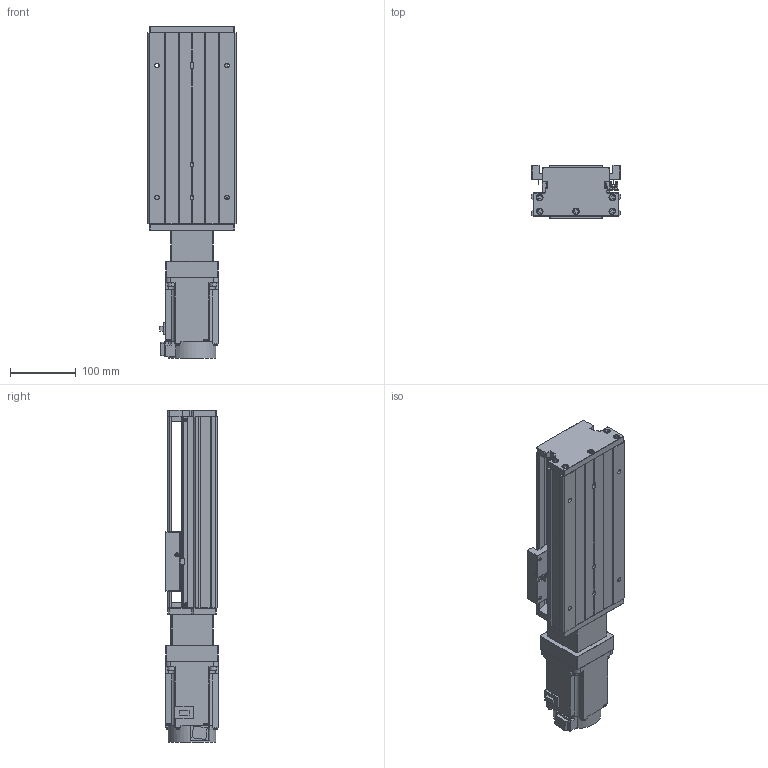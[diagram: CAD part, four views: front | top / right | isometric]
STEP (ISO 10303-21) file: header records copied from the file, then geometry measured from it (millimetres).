
FILE_DESCRIPTION (( 'STEP AP203' ), '1' );
FILE_NAME ('KTH130-150-BC-M75-C4.step', '2023-06-30T04:16:37', ( '微软用户' ), ( '微软中国' ), 'SwSTEP 2.0', 'SolidWorks 2020', '' );
FILE_SCHEMA (( 'CONFIG_CONTROL_DESIGN' ));
Length unit declared in the file: millimetre
Products named in the file (19): KTH130-005; GBT 70.1-M3℅5; hg-kn73j_-s100; GB1155-6X6; GBT77-2000 M3×3; KTH130-150-BC-M75-C4; GBT70.1 M5℅16; す晦芛蹟隊 M3℅5; GBT 70.2-M3¡Á5_M3¡Á6; GBT 70.3-M3℅8; GTH14-001_150; CTHA60-017; CTHA86-006-1_M75; KTH130-002_KTH130-002; EE_SX911P_R; CTHA86-013; KTH130-004; CTHA60-016; CTHA86-027-1
Assembly tree (52 placements, depth 2):
  KTH130-150-BC-M75-C4
    GTH14-001_150
    KTH130-002_KTH130-002
    KTH130-004
    KTH130-005
    GB1155-6X6  x2
    GBT70.1 M5℅16  x10
    GBT 70.2-M3¡Á5_M3¡Á6  x4
    CTHA60-017  x3
    EE_SX911P_R  x3
    CTHA60-016  x2
    GBT 70.1-M3℅5  x6
    GBT77-2000 M3×3  x6
    す晦芛蹟隊 M3℅5  x2
    GBT 70.3-M3℅8  x6
    CTHA86-006-1_M75
    CTHA86-013
    CTHA86-027-1
    hg-kn73j_-s100
Bounding box: 135 x 80.44 x 503.2 mm (x, y, z)
Volume: 2859731.4 mm3; surface area: 432985 mm2
Topology: 55 solids, 55 shells, 2230 faces, 5360 edges, 3335 vertices
Faces by surface type: plane 1236, cylinder 598, cone 280, torus 104, sphere 12
Entity records: 39230 total; most frequent: CARTESIAN_POINT 6481, DIRECTION 6431, ORIENTED_EDGE 6004, EDGE_CURVE 3002, AXIS2_PLACEMENT_3D 2221, LINE 1989, VECTOR 1989, VERTEX_POINT 1907
